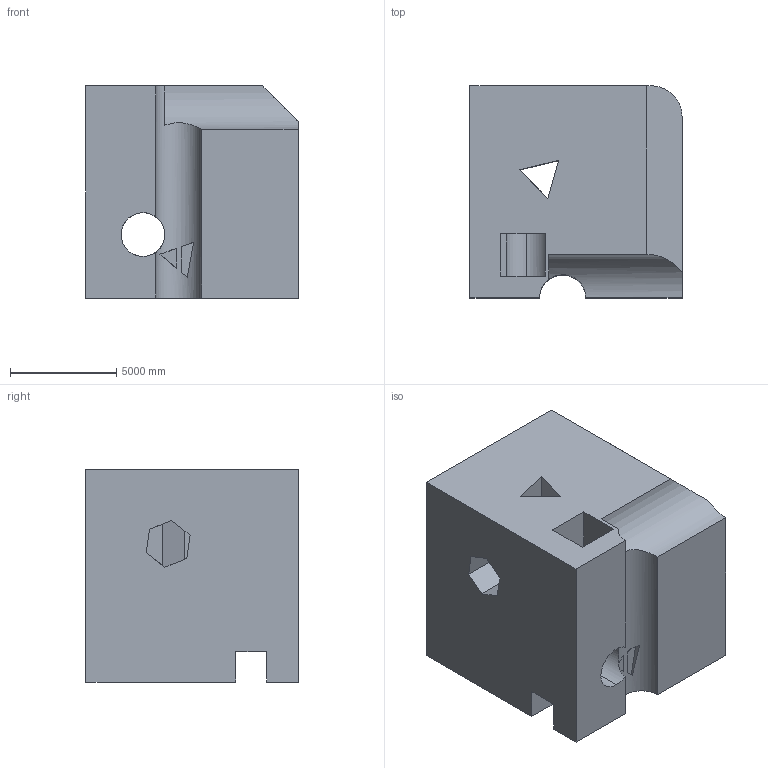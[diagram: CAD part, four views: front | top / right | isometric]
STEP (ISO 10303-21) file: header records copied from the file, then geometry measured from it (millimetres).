
FILE_DESCRIPTION (( 'STEP AP203' ), '1' );
FILE_NAME ('916.STEP', '2022-07-29T14:16:51', ( 'user' ), ( '' ), 'SwSTEP 2.0', 'SolidWorks 2021', '' );
FILE_SCHEMA (( 'CONFIG_CONTROL_DESIGN' ));
Length unit declared in the file: centimetre
Products named in the file (1): 916
Bounding box: 10000 x 10000 x 10000 mm (x, y, z)
Volume: 844374245833.8 mm3; surface area: 767521029.7 mm2
Topology: 1 solids, 1 shells, 46 faces, 138 edges, 92 vertices
Faces by surface type: plane 40, cylinder 6
Entity records: 1877 total; most frequent: CARTESIAN_POINT 570, ORIENTED_EDGE 276, DIRECTION 229, EDGE_CURVE 138, LINE 107, VECTOR 107, VERTEX_POINT 92, AXIS2_PLACEMENT_3D 61
